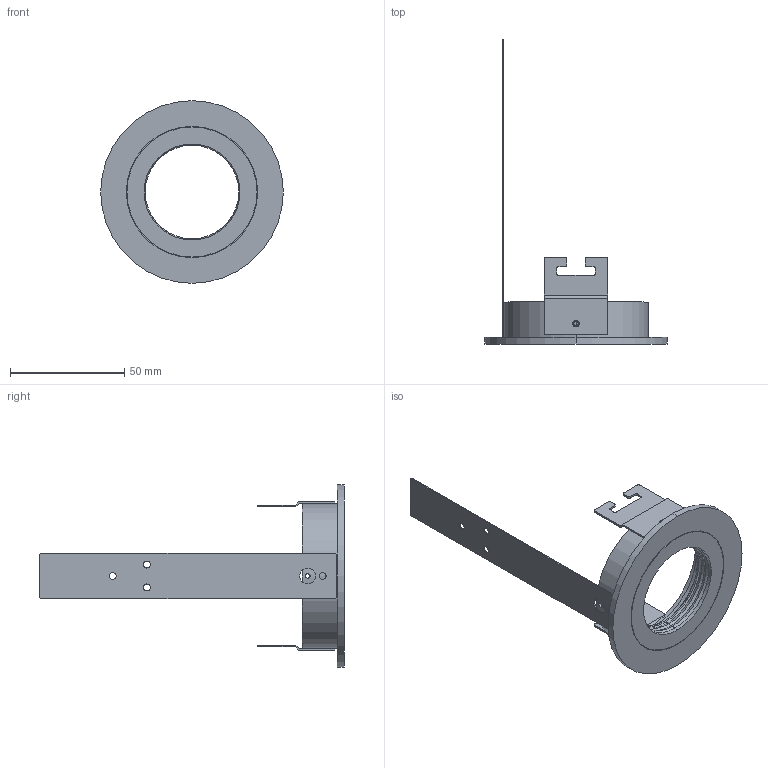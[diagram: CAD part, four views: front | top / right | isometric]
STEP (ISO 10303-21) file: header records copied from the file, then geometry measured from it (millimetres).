
FILE_DESCRIPTION (( 'STEP AP203' ), '1' );
FILE_NAME ('SD-803_STEP.STEP', '2015-12-09T08:48:42', ( 'admin' ), ( '' ), 'SwSTEP 2.0', 'SolidWorks 2015', '' );
FILE_SCHEMA (( 'CONFIG_CONTROL_DESIGN' ));
Length unit declared in the file: millimetre
Products named in the file (2): SD-803_STEP
Bounding box: 80 x 133.5 x 80 mm (x, y, z)
Volume: 25161.4 mm3; surface area: 28664.3 mm2
Topology: 5 solids, 5 shells, 149 faces, 395 edges, 258 vertices
Faces by surface type: cylinder 80, plane 53, bspline 10, cone 6
Entity records: 5268 total; most frequent: CARTESIAN_POINT 1342, DIRECTION 793, ORIENTED_EDGE 790, EDGE_CURVE 395, AXIS2_PLACEMENT_3D 297, VERTEX_POINT 258, VECTOR 199, LINE 199
